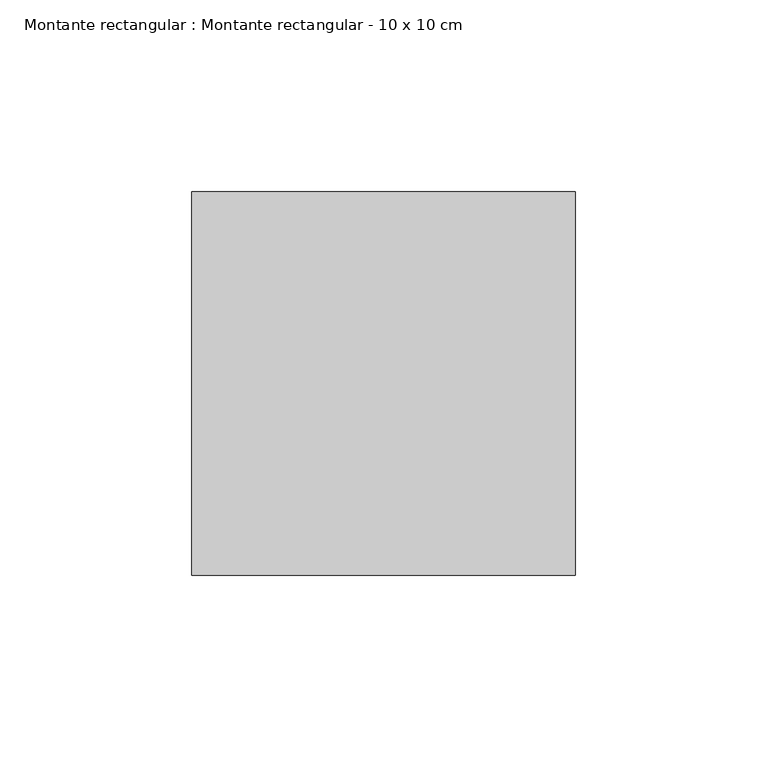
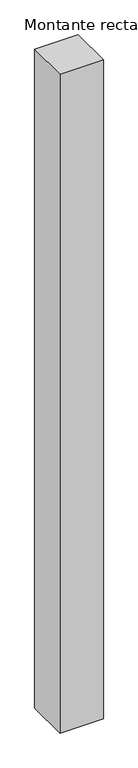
"""IFC4 building model written with IfcOpenShell, lengths in millimetres: member geometry, Montante rectangular : Montante rectangular - 10 x 10 cm."""

from ifc_helpers import new_model, si_unit, frame, origin, place, context, project, spatial, polyline, outline, extrude, source, transform, mapped, element, save


def montante_rectangular_montante_rectangular_10_x_10_cm_5888d3a4(model_context):
    return source(origin(), model_context, "Body", "SweptSolid", [
        extrude(outline(polyline([(-100.0, -50.0), (-100.0, 50.0), (0.0, 50.0), (0.0, -50.0), (-100.0, -50.0)])), frame((0.0, 0.0, -1600.0), z_axis=(0.0, 0.0, 1.0), x_axis=(1.0, 0.0, 0.0)), (0.0, 0.0, 1.0), 1600.0),
    ])


if __name__ == "__main__":
    model = new_model("IFC4")
    model_context = context("Model", 3, world=origin())
    ifc_project = project(units=[si_unit("LENGTHUNIT", "METRE", prefix="MILLI")], contexts=[model_context])
    site = spatial("IfcSite", under=ifc_project)
    building = spatial("IfcBuilding", under=site)
    placement = place(None, origin())
    montante_rectangular_montante_rectangular_10_x_10_cm_shape = montante_rectangular_montante_rectangular_10_x_10_cm_5888d3a4(model_context)
    element("IfcMember", 1, ObjectType="Montante rectangular : Montante rectangular - 10 x 10 cm", at=placement, inside=building, context=model_context, shape_type="MappedRepresentation", body=[
        mapped(montante_rectangular_montante_rectangular_10_x_10_cm_shape, transform((0.0, 0.0, 0.0), x_axis=(1.0, 0.0, 0.0), y_axis=(0.0, 1.0, 0.0), z_axis=(0.0, 0.0, 1.0))),
    ])
    save(model, "model.ifc")
